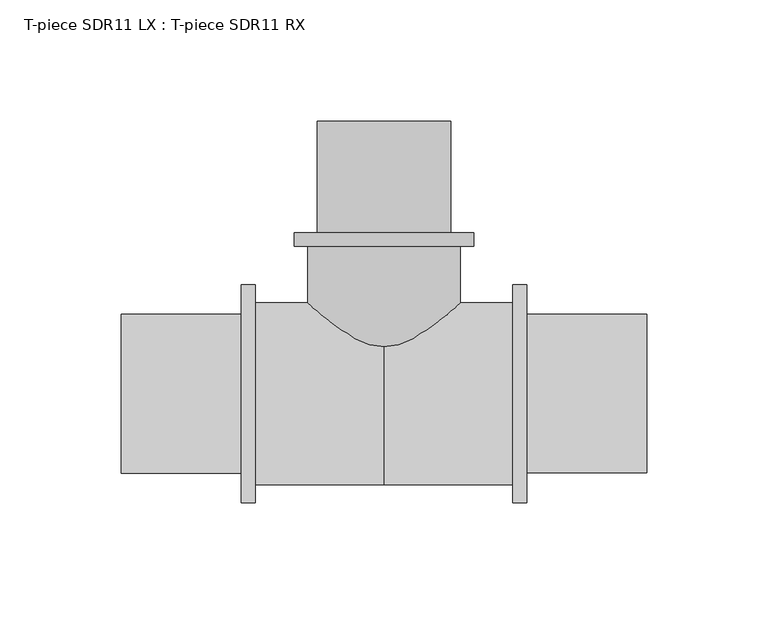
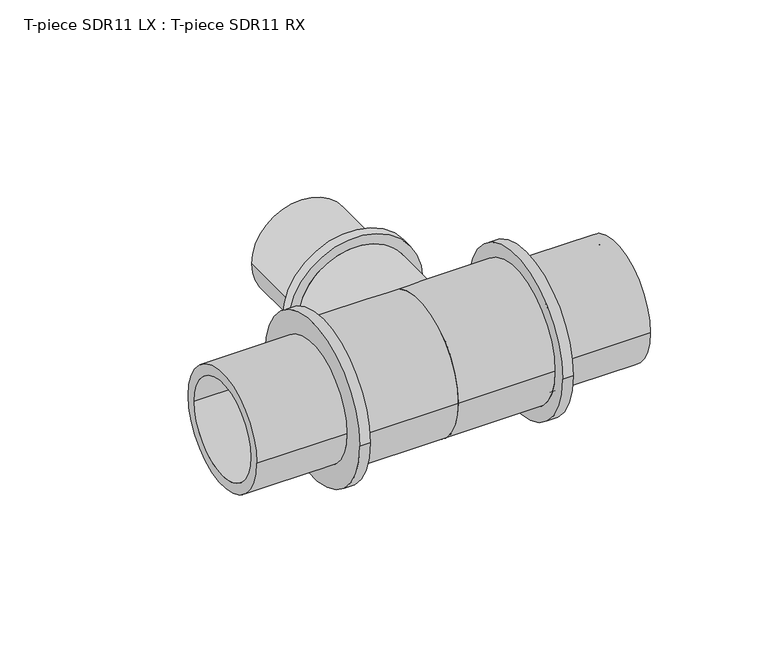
"""IFC4 building model written with IfcOpenShell, lengths in millimetres: pipe fitting geometry, T-piece SDR11 LX : T-piece SDR11 RX."""

from ifc_helpers import new_model, si_unit, point, frame, origin, place, context, project, spatial, polyline, circle_curve, ellipse_curve, trimmed, source, transform, mapped, element, save
from ifc_brep_helpers import plane_surface, cylinder_surface, revolved_surface, advanced_brep


def t_piece_sdr11_lx_t_piece_sdr11_rx_636d46ae(model_context):
    return source(origin(), model_context, "Body", "AdvancedBrep", [
        advanced_brep(
        [(31.5, 2.3107269, 0.0), (-31.5, 2.3107269, 0.0), (-31.5, 60.8, 0.0), (31.5, 60.8, 0.0), (22.5, 112.5, 0.0), (-22.5, 112.5, 0.0), (-22.5, 0.0, 0.0), (22.5, 0.0, 0.0), (27.55, 66.5, 0.0), (-27.55, 66.5, 0.0), (-27.55, 112.5, 0.0), (27.55, 112.5, 0.0), (37.0, 60.8, 0.0), (-37.0, 60.8, 0.0), (-37.0, 66.5, 0.0), (37.0, 66.5, 0.0)],
        [
            (0, 1, circle_curve(frame((0.0, 2.3107269, 0.0), z_axis=(0.0, 1.0, 0.0), x_axis=(-1.0, 0.0, 0.0)), 31.5)),
            (1, 2),
            (2, 3, circle_curve(frame((0.0, 60.8, 0.0), z_axis=(0.0, -1.0, 0.0), x_axis=(-1.0, 0.0, 0.0)), 31.5)),
            (3, 0),
            (4, 5, circle_curve(frame((0.0, 112.5, 0.0), z_axis=(0.0, 1.0, 0.0), x_axis=(-1.0, 0.0, 0.0)), 22.5)),
            (5, 6),
            (6, 7, circle_curve(frame((0.0, 0.0, 0.0), z_axis=(0.0, -1.0, 0.0), x_axis=(-1.0, 0.0, 0.0)), 22.5)),
            (7, 4),
            (8, 9, circle_curve(frame((0.0, 66.5, 0.0), z_axis=(0.0, 1.0, 0.0), x_axis=(-1.0, 0.0, 0.0)), 27.55)),
            (9, 10),
            (10, 11, circle_curve(frame((0.0, 112.5, 0.0), z_axis=(0.0, -1.0, 0.0), x_axis=(-1.0, 0.0, 0.0)), 27.55)),
            (11, 8),
            (12, 13, circle_curve(frame((0.0, 60.8, 0.0), z_axis=(0.0, 1.0, 0.0), x_axis=(-1.0, 0.0, 0.0)), 37.0)),
            (13, 14),
            (14, 15, circle_curve(frame((0.0, 66.5, 0.0), z_axis=(0.0, -1.0, 0.0), x_axis=(-1.0, 0.0, 0.0)), 37.0)),
            (15, 12),
            (12, 13, circle_curve(frame((0.0, 60.8, 0.0), z_axis=(0.0, -1.0, 0.0), x_axis=(1.0, 0.0, 0.0)), 37.0)),
            (2, 3, circle_curve(frame((0.0, 60.8, 0.0), z_axis=(0.0, 1.0, 0.0), x_axis=(1.0, 0.0, 0.0)), 31.5)),
            (1, 0, circle_curve(frame((0.0, 2.3107269, 0.0), z_axis=(0.0, 1.0, 0.0), x_axis=(1.0, 0.0, 0.0)), 31.5)),
            (5, 4, circle_curve(frame((0.0, 112.5, 0.0), z_axis=(0.0, 1.0, 0.0), x_axis=(1.0, 0.0, 0.0)), 22.5)),
            (7, 6, circle_curve(frame((0.0, 0.0, 0.0), z_axis=(0.0, -1.0, 0.0), x_axis=(1.0, 0.0, 0.0)), 22.5)),
            (10, 11, circle_curve(frame((0.0, 112.5, 0.0), z_axis=(0.0, 1.0, 0.0), x_axis=(1.0, 0.0, 0.0)), 27.55)),
            (9, 8, circle_curve(frame((0.0, 66.5, 0.0), z_axis=(0.0, 1.0, 0.0), x_axis=(1.0, 0.0, 0.0)), 27.55)),
            (14, 15, circle_curve(frame((0.0, 66.5, 0.0), z_axis=(0.0, 1.0, 0.0), x_axis=(1.0, 0.0, 0.0)), 37.0)),
            (6, 1, circle_curve(frame((-17.7462802, 37.197475, 0.0), z_axis=(0.0, 0.0, -1.0), x_axis=(0.0, -1.0, 0.0)), 37.5)),
            (0, 7, circle_curve(frame((17.7462802, 37.197475, 0.0), z_axis=(0.0, 0.0, -1.0), x_axis=(0.0, -1.0, 0.0)), 37.5)),
        ],
        [
            cylinder_surface(frame((0.0, 0.0, 0.0), z_axis=(0.0, -1.0, 0.0), x_axis=(-1.0, 0.0, 0.0)), 31.5),
            revolved_surface(polyline([(-22.5, 0.0, 0.0), (-22.5, 112.5, 0.0)]), (0.0, 0.0, 0.0), (0.0, -1.0, 0.0)),
            cylinder_surface(frame((0.0, 0.0, 0.0), z_axis=(0.0, -1.0, 0.0), x_axis=(-1.0, 0.0, 0.0)), 27.55),
            cylinder_surface(frame((0.0, 0.0, 0.0), z_axis=(0.0, -1.0, 0.0), x_axis=(-1.0, 0.0, 0.0)), 37.0),
            plane_surface(frame((0.0, 60.8, 0.0), z_axis=(0.0, -1.0, 0.0), x_axis=(1.0, 0.0, 0.0))),
            cylinder_surface(frame((0.0, 0.0, 0.0), z_axis=(0.0, -1.0, 0.0), x_axis=(1.0, 0.0, 0.0)), 31.5),
            revolved_surface(polyline([(22.5, 0.0, 0.0), (22.5, 112.5, 0.0)]), (0.0, 0.0, 0.0), (0.0, -1.0, 0.0)),
            plane_surface(frame((0.0, 112.5, 0.0), z_axis=(0.0, 1.0, 0.0), x_axis=(1.0, 0.0, 0.0))),
            cylinder_surface(frame((0.0, 0.0, 0.0), z_axis=(0.0, -1.0, 0.0), x_axis=(1.0, 0.0, 0.0)), 27.55),
            plane_surface(frame((0.0, 66.5, 0.0), z_axis=(0.0, 1.0, 0.0), x_axis=(1.0, 0.0, 0.0))),
            cylinder_surface(frame((0.0, 0.0, 0.0), z_axis=(0.0, -1.0, 0.0), x_axis=(1.0, 0.0, 0.0)), 37.0),
            revolved_surface(trimmed(ellipse_curve(frame((-17.7462802, 37.197475, 0.0), z_axis=(0.0, 0.0, 1.0), x_axis=(0.0, -1.0, 0.0)), 37.5, 37.5), [point((-31.5, 2.3107269, 0.0))], [point((-22.5, 0.0, 0.0))], True, "CARTESIAN"), (0.0, 0.0, 0.0), (0.0, -1.0, 0.0)),
            revolved_surface(trimmed(ellipse_curve(frame((17.7462802, 37.197475, 0.0), z_axis=(0.0, 0.0, -1.0), x_axis=(0.0, -1.0, 0.0)), 37.5, 37.5), [point((31.5, 2.3107269, 0.0))], [point((22.5, 0.0, 0.0))], True, "CARTESIAN"), (0.0, 0.0, 0.0), (0.0, -1.0, 0.0)),
        ],
        [
            (0, [[1, 2, 3, 4]]),
            (1, [[5, 6, 7, 8]]),
            (2, [[9, 10, 11, 12]]),
            (3, [[13, 14, 15, 16]]),
            (4, [[17, -13], [18, -3]]),
            (5, [[19, -4, -18, -2]]),
            (6, [[20, -8, 21, -6]]),
            (7, [[22, -11], [-20, -5]]),
            (8, [[23, -12, -22, -10]]),
            (9, [[24, -15], [-23, -9]]),
            (10, [[-17, -16, -24, -14]]),
            (11, [[-7, 25, -1, 26]]),
            (12, [[-21, -26, -19, -25]]),
        ],
    ),
        advanced_brep(
        [(53.1, 37.5, 0.0), (53.1, -37.5, 0.0), (0.0, -37.5, 0.0), (0.0, 37.5, 0.0), (0.0, 27.0, 0.0), (0.0, -27.0, 0.0), (108.5, -27.0, 0.0), (108.5, 27.0, 0.0), (108.5, 32.7, 0.0), (108.5, -32.7, 0.0), (58.9, -32.7, 0.0), (58.9, 32.7, 0.0), (58.9, 45.0, 0.0), (58.9, -45.0, 0.0), (53.1, -45.0, 0.0), (53.1, 45.0, 0.0)],
        [
            (0, 1, circle_curve(frame((53.1, 0.0, 0.0), z_axis=(-1.0, 0.0, 0.0), x_axis=(0.0, -1.0, 0.0)), 37.5)),
            (1, 2),
            (2, 3, circle_curve(frame((0.0, 0.0, 0.0), z_axis=(1.0, 0.0, 0.0), x_axis=(0.0, -1.0, 0.0)), 37.5)),
            (3, 0),
            (4, 5, circle_curve(frame((0.0, 0.0, 0.0), z_axis=(-1.0, 0.0, 0.0), x_axis=(0.0, -1.0, 0.0)), 27.0)),
            (5, 6),
            (6, 7, circle_curve(frame((108.5, 0.0, 0.0), z_axis=(1.0, 0.0, 0.0), x_axis=(0.0, -1.0, 0.0)), 27.0)),
            (7, 4),
            (8, 9, circle_curve(frame((108.5, 0.0, 0.0), z_axis=(-1.0, 0.0, 0.0), x_axis=(0.0, -1.0, 0.0)), 32.7)),
            (9, 10),
            (10, 11, circle_curve(frame((58.9, 0.0, 0.0), z_axis=(1.0, 0.0, 0.0), x_axis=(0.0, -1.0, 0.0)), 32.7)),
            (11, 8),
            (12, 13, circle_curve(frame((58.9, 0.0, 0.0), z_axis=(-1.0, 0.0, 0.0), x_axis=(0.0, -1.0, 0.0)), 45.0)),
            (13, 14),
            (14, 15, circle_curve(frame((53.1, 0.0, 0.0), z_axis=(1.0, 0.0, 0.0), x_axis=(0.0, -1.0, 0.0)), 45.0)),
            (15, 12),
            (14, 15, circle_curve(frame((53.1, 0.0, 0.0), z_axis=(-1.0, 0.0, 0.0), x_axis=(0.0, 1.0, 0.0)), 45.0)),
            (0, 1, circle_curve(frame((53.1, 0.0, 0.0), z_axis=(1.0, 0.0, 0.0), x_axis=(0.0, 1.0, 0.0)), 37.5)),
            (3, 2, circle_curve(frame((0.0, 0.0, 0.0), z_axis=(1.0, 0.0, 0.0), x_axis=(0.0, 1.0, 0.0)), 37.5)),
            (4, 5, circle_curve(frame((0.0, 0.0, 0.0), z_axis=(1.0, 0.0, 0.0), x_axis=(0.0, 1.0, 0.0)), 27.0)),
            (7, 6, circle_curve(frame((108.5, 0.0, 0.0), z_axis=(1.0, 0.0, 0.0), x_axis=(0.0, 1.0, 0.0)), 27.0)),
            (8, 9, circle_curve(frame((108.5, 0.0, 0.0), z_axis=(1.0, 0.0, 0.0), x_axis=(0.0, 1.0, 0.0)), 32.7)),
            (11, 10, circle_curve(frame((58.9, 0.0, 0.0), z_axis=(1.0, 0.0, 0.0), x_axis=(0.0, 1.0, 0.0)), 32.7)),
            (12, 13, circle_curve(frame((58.9, 0.0, 0.0), z_axis=(1.0, 0.0, 0.0), x_axis=(0.0, 1.0, 0.0)), 45.0)),
        ],
        [
            cylinder_surface(frame((0.0, 0.0, 0.0), z_axis=(1.0, 0.0, 0.0), x_axis=(0.0, -1.0, 0.0)), 37.5),
            revolved_surface(polyline([(108.5, -27.0, 0.0), (0.0, -27.0, 0.0)]), (0.0, 0.0, 0.0), (1.0, 0.0, 0.0)),
            cylinder_surface(frame((0.0, 0.0, 0.0), z_axis=(1.0, 0.0, 0.0), x_axis=(0.0, -1.0, 0.0)), 32.7),
            cylinder_surface(frame((0.0, 0.0, 0.0), z_axis=(1.0, 0.0, 0.0), x_axis=(0.0, -1.0, 0.0)), 45.0),
            plane_surface(frame((53.1, 0.0, 0.0), z_axis=(-1.0, 0.0, 0.0), x_axis=(0.0, 1.0, 0.0))),
            cylinder_surface(frame((0.0, 0.0, 0.0), z_axis=(1.0, 0.0, 0.0), x_axis=(0.0, 1.0, 0.0)), 37.5),
            plane_surface(frame((0.0, 0.0, 0.0), z_axis=(-1.0, 0.0, 0.0), x_axis=(0.0, 1.0, 0.0))),
            revolved_surface(polyline([(108.5, 27.0, 0.0), (0.0, 27.0, 0.0)]), (0.0, 0.0, 0.0), (1.0, 0.0, 0.0)),
            plane_surface(frame((108.5, 0.0, 0.0), z_axis=(1.0, 0.0, 0.0), x_axis=(0.0, 1.0, 0.0))),
            cylinder_surface(frame((0.0, 0.0, 0.0), z_axis=(1.0, 0.0, 0.0), x_axis=(0.0, 1.0, 0.0)), 32.7),
            plane_surface(frame((58.9, 0.0, 0.0), z_axis=(1.0, 0.0, 0.0), x_axis=(0.0, 1.0, 0.0))),
            cylinder_surface(frame((0.0, 0.0, 0.0), z_axis=(1.0, 0.0, 0.0), x_axis=(0.0, 1.0, 0.0)), 45.0),
        ],
        [
            (0, [[1, 2, 3, 4]]),
            (1, [[5, 6, 7, 8]]),
            (2, [[9, 10, 11, 12]]),
            (3, [[13, 14, 15, 16]]),
            (4, [[17, -15], [18, -1]]),
            (5, [[-18, -4, 19, -2]]),
            (6, [[-19, -3], [20, -5]]),
            (7, [[-20, -8, 21, -6]]),
            (8, [[22, -9], [-21, -7]]),
            (9, [[-22, -12, 23, -10]]),
            (10, [[24, -13], [-23, -11]]),
            (11, [[-24, -16, -17, -14]]),
        ],
    ),
        advanced_brep(
        [(0.0, 37.5, 0.0), (0.0, -37.5, 0.0), (-53.1, -37.5, 0.0), (-53.1, 37.5, 0.0), (-108.5, 27.0, 0.0), (-108.5, -27.0, 0.0), (0.0, -27.0, 0.0), (0.0, 27.0, 0.0), (-58.9, 32.75, 0.0), (-58.9, -32.75, 0.0), (-108.5, -32.75, 0.0), (-108.5, 32.75, 0.0), (-53.1, 45.0, 0.0), (-53.1, -45.0, 0.0), (-58.9, -45.0, 0.0), (-58.9, 45.0, 0.0)],
        [
            (0, 1, circle_curve(frame((0.0, 0.0, 0.0), z_axis=(-1.0, 0.0, 0.0), x_axis=(0.0, -1.0, 0.0)), 37.5)),
            (1, 2),
            (2, 3, circle_curve(frame((-53.1, 0.0, 0.0), z_axis=(1.0, 0.0, 0.0), x_axis=(0.0, -1.0, 0.0)), 37.5)),
            (3, 0),
            (4, 5, circle_curve(frame((-108.5, 0.0, 0.0), z_axis=(-1.0, 0.0, 0.0), x_axis=(0.0, -1.0, 0.0)), 27.0)),
            (5, 6),
            (6, 7, circle_curve(frame((0.0, 0.0, 0.0), z_axis=(1.0, 0.0, 0.0), x_axis=(0.0, -1.0, 0.0)), 27.0)),
            (7, 4),
            (8, 9, circle_curve(frame((-58.9, 0.0, 0.0), z_axis=(-1.0, 0.0, 0.0), x_axis=(0.0, -1.0, 0.0)), 32.75)),
            (9, 10),
            (10, 11, circle_curve(frame((-108.5, 0.0, 0.0), z_axis=(1.0, 0.0, 0.0), x_axis=(0.0, -1.0, 0.0)), 32.75)),
            (11, 8),
            (12, 13, circle_curve(frame((-53.1, 0.0, 0.0), z_axis=(-1.0, 0.0, 0.0), x_axis=(0.0, -1.0, 0.0)), 45.0)),
            (13, 14),
            (14, 15, circle_curve(frame((-58.9, 0.0, 0.0), z_axis=(1.0, 0.0, 0.0), x_axis=(0.0, -1.0, 0.0)), 45.0)),
            (15, 12),
            (12, 13, circle_curve(frame((-53.1, 0.0, 0.0), z_axis=(1.0, 0.0, 0.0), x_axis=(0.0, 1.0, 0.0)), 45.0)),
            (2, 3, circle_curve(frame((-53.1, 0.0, 0.0), z_axis=(-1.0, 0.0, 0.0), x_axis=(0.0, 1.0, 0.0)), 37.5)),
            (1, 0, circle_curve(frame((0.0, 0.0, 0.0), z_axis=(-1.0, 0.0, 0.0), x_axis=(0.0, 1.0, 0.0)), 37.5)),
            (6, 7, circle_curve(frame((0.0, 0.0, 0.0), z_axis=(-1.0, 0.0, 0.0), x_axis=(0.0, 1.0, 0.0)), 27.0)),
            (5, 4, circle_curve(frame((-108.5, 0.0, 0.0), z_axis=(-1.0, 0.0, 0.0), x_axis=(0.0, 1.0, 0.0)), 27.0)),
            (10, 11, circle_curve(frame((-108.5, 0.0, 0.0), z_axis=(-1.0, 0.0, 0.0), x_axis=(0.0, 1.0, 0.0)), 32.75)),
            (9, 8, circle_curve(frame((-58.9, 0.0, 0.0), z_axis=(-1.0, 0.0, 0.0), x_axis=(0.0, 1.0, 0.0)), 32.75)),
            (14, 15, circle_curve(frame((-58.9, 0.0, 0.0), z_axis=(-1.0, 0.0, 0.0), x_axis=(0.0, 1.0, 0.0)), 45.0)),
        ],
        [
            cylinder_surface(frame((0.0, 0.0, 0.0), z_axis=(1.0, 0.0, 0.0), x_axis=(0.0, -1.0, 0.0)), 37.5),
            revolved_surface(polyline([(0.0, -27.0, 0.0), (-108.5, -27.0, 0.0)]), (0.0, 0.0, 0.0), (1.0, 0.0, 0.0)),
            cylinder_surface(frame((0.0, 0.0, 0.0), z_axis=(1.0, 0.0, 0.0), x_axis=(0.0, -1.0, 0.0)), 32.75),
            cylinder_surface(frame((0.0, 0.0, 0.0), z_axis=(1.0, 0.0, 0.0), x_axis=(0.0, -1.0, 0.0)), 45.0),
            plane_surface(frame((-53.1, 0.0, 0.0), z_axis=(1.0, 0.0, 0.0), x_axis=(0.0, 1.0, 0.0))),
            cylinder_surface(frame((0.0, 0.0, 0.0), z_axis=(1.0, 0.0, 0.0), x_axis=(0.0, 1.0, 0.0)), 37.5),
            plane_surface(frame((0.0, 0.0, 0.0), z_axis=(1.0, 0.0, 0.0), x_axis=(0.0, 1.0, 0.0))),
            revolved_surface(polyline([(0.0, 27.0, 0.0), (-108.5, 27.0, 0.0)]), (0.0, 0.0, 0.0), (1.0, 0.0, 0.0)),
            plane_surface(frame((-108.5, 0.0, 0.0), z_axis=(-1.0, 0.0, 0.0), x_axis=(0.0, 1.0, 0.0))),
            cylinder_surface(frame((0.0, 0.0, 0.0), z_axis=(1.0, 0.0, 0.0), x_axis=(0.0, 1.0, 0.0)), 32.75),
            plane_surface(frame((-58.9, 0.0, 0.0), z_axis=(-1.0, 0.0, 0.0), x_axis=(0.0, 1.0, 0.0))),
            cylinder_surface(frame((0.0, 0.0, 0.0), z_axis=(1.0, 0.0, 0.0), x_axis=(0.0, 1.0, 0.0)), 45.0),
        ],
        [
            (0, [[1, 2, 3, 4]]),
            (1, [[5, 6, 7, 8]]),
            (2, [[9, 10, 11, 12]]),
            (3, [[13, 14, 15, 16]]),
            (4, [[17, -13], [18, -3]]),
            (5, [[19, -4, -18, -2]]),
            (6, [[-19, -1], [20, -7]]),
            (7, [[21, -8, -20, -6]]),
            (8, [[22, -11], [-21, -5]]),
            (9, [[23, -12, -22, -10]]),
            (10, [[24, -15], [-23, -9]]),
            (11, [[-17, -16, -24, -14]]),
        ],
    ),
    ])


if __name__ == "__main__":
    model = new_model("IFC4")
    model_context = context("Model", 3, world=origin())
    ifc_project = project(units=[si_unit("LENGTHUNIT", "METRE", prefix="MILLI")], contexts=[model_context])
    site = spatial("IfcSite", under=ifc_project)
    building = spatial("IfcBuilding", under=site)
    placement = place(None, origin())
    t_piece_sdr11_lx_t_piece_sdr11_rx_shape = t_piece_sdr11_lx_t_piece_sdr11_rx_636d46ae(model_context)
    element("IfcPipeFitting", 1, ObjectType="T-piece SDR11 LX : T-piece SDR11 RX", at=placement, inside=building, context=model_context, shape_type="MappedRepresentation", body=[
        mapped(t_piece_sdr11_lx_t_piece_sdr11_rx_shape, transform((0.0, 0.0, 0.0), x_axis=(1.0, 0.0, 0.0), y_axis=(0.0, 1.0, 0.0), z_axis=(0.0, 0.0, 1.0))),
    ])
    save(model, "model.ifc")
